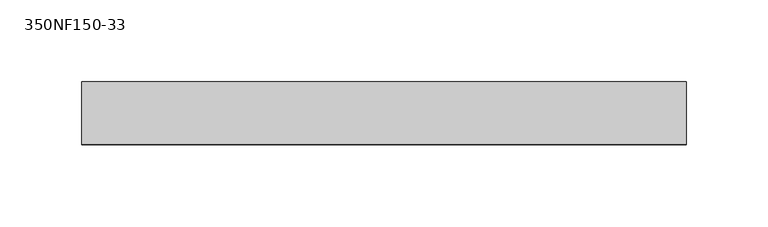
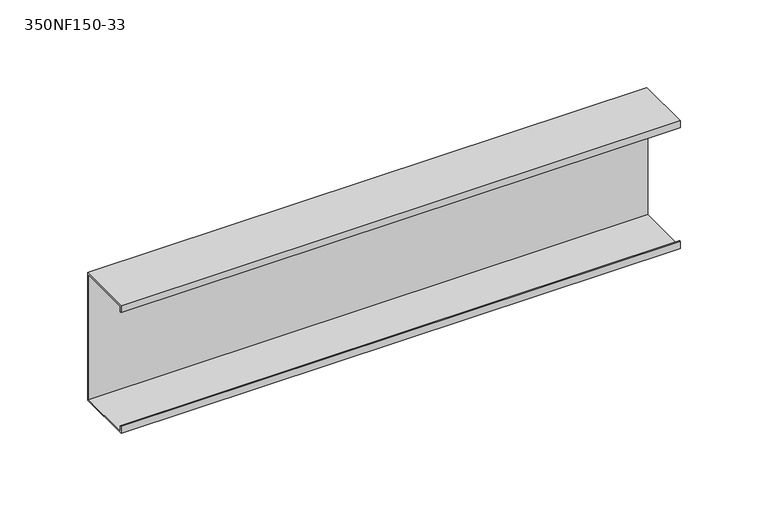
"""IFC4 building model written with IfcOpenShell, lengths in millimetres: beam geometry, BIMSF-SSMA-S : 350NF150-33."""

from ifc_helpers import new_model, si_unit, frame, origin, place, context, project, spatial, polyline, outline, extrude, source, transform, mapped, element, save


def beam_350nf150_33_b683acd3(model_context):
    return source(origin(), model_context, "Body", "SweptSolid", [
        extrude(outline(polyline([(19.05, 44.45), (19.05, -44.45), (-19.05, -44.45), (-19.05, -39.6748), (-18.1676842, -39.6748), (-18.1676842, -43.5676842), (18.1676842, -43.5676842), (18.1676842, 43.5676842), (-18.1676842, 43.5676842), (-18.1676842, 39.6748), (-19.05, 39.6748), (-19.05, 44.45), (19.05, 44.45)])), frame((-184.15, 0.0, 0.0), z_axis=(1.0, 0.0, 0.0), x_axis=(0.0, 1.0, 0.0)), (0.0, 0.0, 1.0), 368.3),
    ])


if __name__ == "__main__":
    model = new_model("IFC4")
    model_context = context("Model", 3, world=origin())
    ifc_project = project(units=[si_unit("LENGTHUNIT", "METRE", prefix="MILLI")], contexts=[model_context])
    site = spatial("IfcSite", under=ifc_project)
    building = spatial("IfcBuilding", under=site)
    placement = place(None, origin())
    beam_350nf150_33_shape = beam_350nf150_33_b683acd3(model_context)
    element("IfcBeam", 1, ObjectType="BIMSF-SSMA-S : 350NF150-33", at=placement, inside=building, context=model_context, shape_type="MappedRepresentation", body=[
        mapped(beam_350nf150_33_shape, transform((0.0, 0.0, 0.0), x_axis=(1.0, 0.0, 0.0), y_axis=(0.0, 1.0, 0.0), z_axis=(0.0, 0.0, 1.0))),
    ])
    save(model, "model.ifc")
